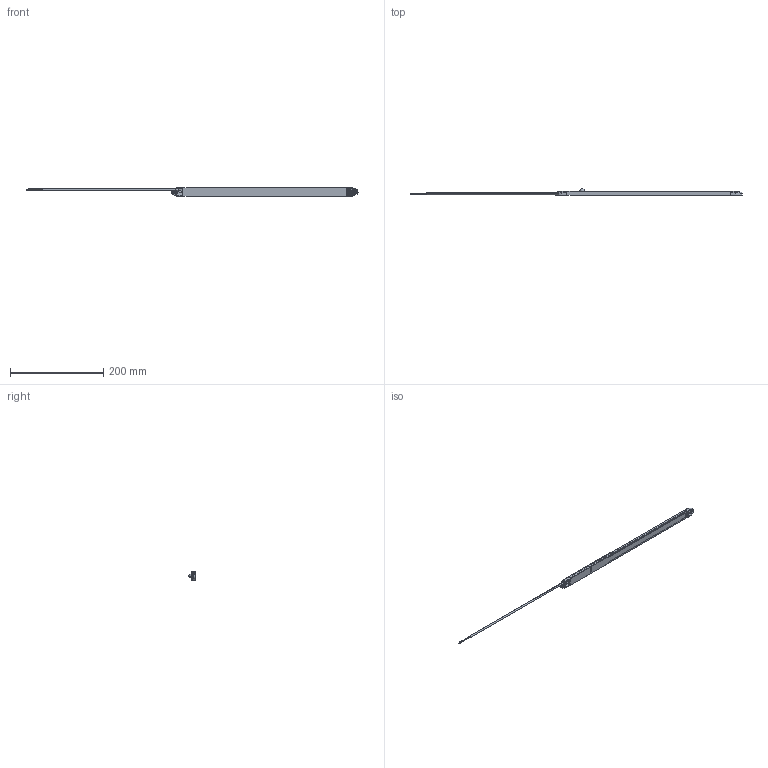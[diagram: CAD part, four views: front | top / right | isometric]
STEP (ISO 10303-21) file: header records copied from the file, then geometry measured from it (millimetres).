
FILE_DESCRIPTION (( 'STEP AP203' ), '1' );
FILE_NAME ('LAP400PIR.STEP', '2021-12-20T08:18:10', ( '' ), ( '' ), 'SwSTEP 2.0', 'SolidWorks 2018', '' );
FILE_SCHEMA (( 'CONFIG_CONTROL_DESIGN' ));
Length unit declared in the file: millimetre
Products named in the file (10): 63202366; 63202407; 63202157; 63202150; 63202280_2.9mmX13mm; 63202151; 63202282; 63202152; LAP400PIR; 63202153
Assembly tree (11 placements, depth 2):
  LAP400PIR
    63202366
    63202407
    63202150
    63202151
    63202152  x2
    63202153
    63202157
    63202280_2.9mmX13mm  x2
    63202282
Bounding box: 711.41 x 13.7 x 17.84 mm (x, y, z)
Volume: 28462 mm3; surface area: 48698.2 mm2
Topology: 19 solids, 19 shells, 623 faces, 1583 edges, 1033 vertices
Faces by surface type: plane 287, cylinder 154, bspline 128, torus 32, cone 16, sphere 6
Entity records: 31617 total; most frequent: CARTESIAN_POINT 17425, ORIENTED_EDGE 2824, DIRECTION 2528, EDGE_CURVE 1412, VERTEX_POINT 925, AXIS2_PLACEMENT_3D 849, LINE 830, VECTOR 830
